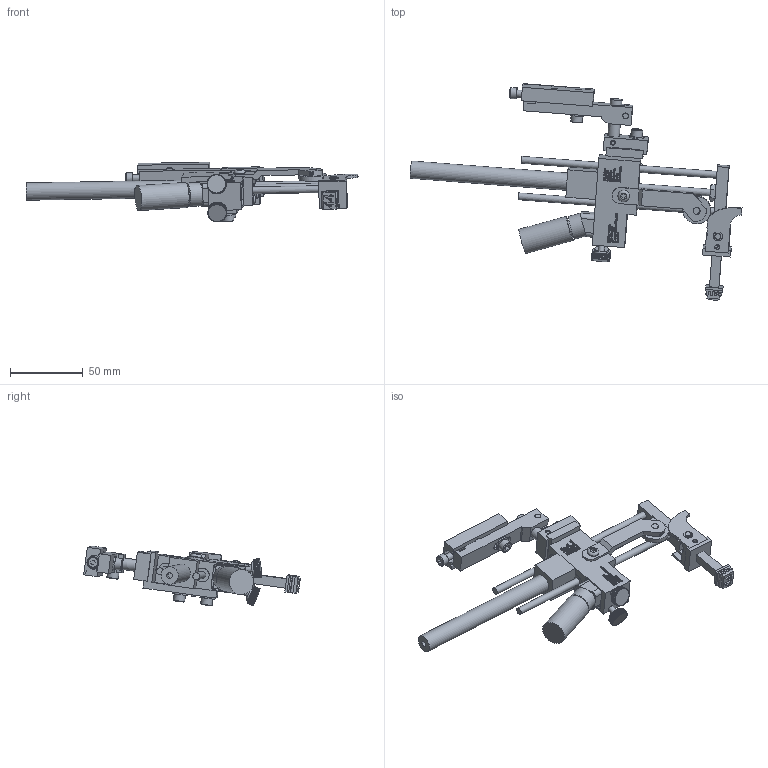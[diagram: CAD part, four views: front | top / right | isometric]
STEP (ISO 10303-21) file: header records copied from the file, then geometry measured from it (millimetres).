
FILE_DESCRIPTION((''),'2;1');
FILE_NAME('C:\Documents and Settings\Ron\My Documents\Inventor\Sprinter Drawing\Machines in Inventor\Model 44\Type\Ext Hd 1in\Brkt\90\Model 44 Ext HD 1in type 90 Deg w brkt.stp','2009-01-20T09:41:30',('Ron'),(''),'Autodesk Inventor 2008','Autodesk Inventor 2008','');
FILE_SCHEMA(('AUTOMOTIVE_DESIGN { 1 0 10303 214 1 1 1 1 }'));
Length unit declared in the file: inch
Products named in the file (1): Model 44 Ext HD 1in type 90 Deg w brkt
Bounding box: 228.32 x 149.03 x 40.98 mm (x, y, z)
Volume: 111734.4 mm3; surface area: 55183.1 mm2
Topology: 30 solids, 30 shells, 6293 faces, 15665 edges, 9705 vertices
Faces by surface type: plane 4433, bspline 1329, cylinder 473, cone 54, torus 4
Full cylindrical faces by diameter (mm): 3.175 x4, 3.302 x1, 3.505 x1, 3.962 x1, 4.064 x6, 4.166 x1, 4.699 x1, 4.75 x4, 4.775 x1, 4.826 x7, 5.08 x1, 5.156 x4, 5.207 x2, 5.41 x2, 6.096 x1, 7.239 x1, 7.62 x1, 7.925 x7, 7.938 x1, 8.128 x1, 9.017 x1, 9.525 x2, 10.312 x4, 10.922 x1, 11.036 x1, 11.938 x2, 14.478 x1, 16.256 x1, 17.272 x1, 19.05 x1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
Entity records: 200986 total; most frequent: CARTESIAN_POINT 55158, ORIENTED_EDGE 30860, DIRECTION 24014, EDGE_CURVE 15430, VECTOR 11532, LINE 11532, VERTEX_POINT 9634, EDGE_LOOP 6864
